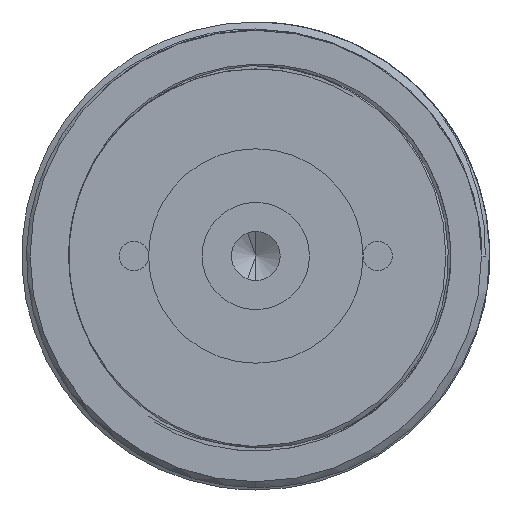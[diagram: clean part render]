
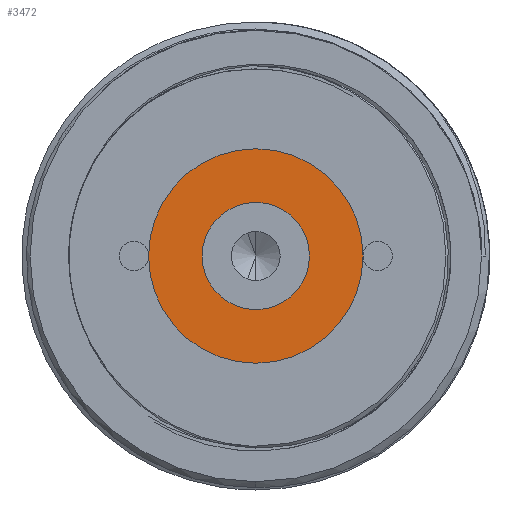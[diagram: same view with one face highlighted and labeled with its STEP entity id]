
A CAD part, front view. The second image highlights one B-rep face of the part: STEP entity #3472.
In plain terms, the highlighted planar face has unit normal (0, -1, 0).
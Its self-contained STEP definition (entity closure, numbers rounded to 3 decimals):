
#202 = CIRCLE ( 'NONE', #10458, 11. ) ;
#917 = FACE_OUTER_BOUND ( 'NONE', #17044, .T. ) ;
#1322 = FACE_BOUND ( 'NONE', #17265, .T. ) ;
#2103 = CARTESIAN_POINT ( 'NONE',  ( 0., 0., 0. ) ) ;
#2618 = DIRECTION ( 'NONE',  ( 0., -1., 0. ) ) ;
#2994 = CARTESIAN_POINT ( 'NONE',  ( 0., 0., 0. ) ) ;
#3460 = DIRECTION ( 'NONE',  ( 0., 0., -1. ) ) ;
#3472 = ADVANCED_FACE ( 'NONE', ( #1322, #917 ), #14703, .F. ) ;
#3903 = DIRECTION ( 'NONE',  ( 0., 0., 1. ) ) ;
#4355 = DIRECTION ( 'NONE',  ( 0., 0., -1. ) ) ;
#4820 = ORIENTED_EDGE ( 'NONE', *, *, #12345, .F. ) ;
#5236 = CIRCLE ( 'NONE', #15280, 11. ) ;
#6163 = CARTESIAN_POINT ( 'NONE',  ( 0., 0., -5.5 ) ) ;
#6369 = CARTESIAN_POINT ( 'NONE',  ( 0., 0., -11. ) ) ;
#6418 = VERTEX_POINT ( 'NONE', #6369 ) ;
#6719 = CARTESIAN_POINT ( 'NONE',  ( 0., 0., 11. ) ) ;
#7103 = DIRECTION ( 'NONE',  ( 0., -1., 0. ) ) ;
#7630 = CIRCLE ( 'NONE', #10913, 5.5 ) ;
#8888 = ORIENTED_EDGE ( 'NONE', *, *, #12606, .T. ) ;
#9329 = CARTESIAN_POINT ( 'NONE',  ( 0., 0., 0. ) ) ;
#9556 = AXIS2_PLACEMENT_3D ( 'NONE', #9329, #12065, #3903 ) ;
#10458 = AXIS2_PLACEMENT_3D ( 'NONE', #2103, #11620, #3460 ) ;
#10755 = CARTESIAN_POINT ( 'NONE',  ( 0., 0., 0. ) ) ;
#10913 = AXIS2_PLACEMENT_3D ( 'NONE', #2994, #12510, #4355 ) ;
#11204 = ORIENTED_EDGE ( 'NONE', *, *, #17438, .F. ) ;
#11282 = CARTESIAN_POINT ( 'NONE',  ( 0., 0., 5.5 ) ) ;
#11620 = DIRECTION ( 'NONE',  ( 0., -1., 0. ) ) ;
#12051 = ORIENTED_EDGE ( 'NONE', *, *, #15913, .T. ) ;
#12065 = DIRECTION ( 'NONE',  ( 0., 1., 0. ) ) ;
#12136 = DIRECTION ( 'NONE',  ( 0., 0., -1. ) ) ;
#12260 = VERTEX_POINT ( 'NONE', #11282 ) ;
#12345 = EDGE_CURVE ( 'NONE', #12260, #14687, #14585, .T. ) ;
#12510 = DIRECTION ( 'NONE',  ( 0., -1., 0. ) ) ;
#12606 = EDGE_CURVE ( 'NONE', #12821, #6418, #5236, .T. ) ;
#12821 = VERTEX_POINT ( 'NONE', #6719 ) ;
#14585 = CIRCLE ( 'NONE', #14677, 5.5 ) ;
#14677 = AXIS2_PLACEMENT_3D ( 'NONE', #10755, #2618, #12136 ) ;
#14687 = VERTEX_POINT ( 'NONE', #6163 ) ;
#14703 = PLANE ( 'NONE',  #9556 ) ;
#15211 = CARTESIAN_POINT ( 'NONE',  ( 0., 0., 0. ) ) ;
#15280 = AXIS2_PLACEMENT_3D ( 'NONE', #15211, #7103, #16568 ) ;
#15913 = EDGE_CURVE ( 'NONE', #6418, #12821, #202, .T. ) ;
#16568 = DIRECTION ( 'NONE',  ( 0., 0., -1. ) ) ;
#17044 = EDGE_LOOP ( 'NONE', ( #12051, #8888 ) ) ;
#17265 = EDGE_LOOP ( 'NONE', ( #11204, #4820 ) ) ;
#17438 = EDGE_CURVE ( 'NONE', #14687, #12260, #7630, .T. ) ;
